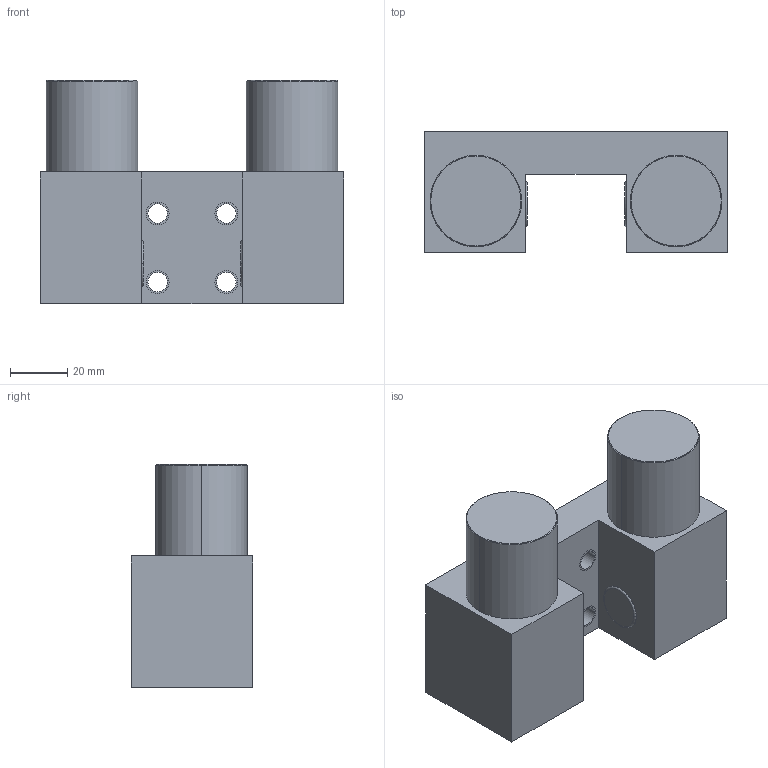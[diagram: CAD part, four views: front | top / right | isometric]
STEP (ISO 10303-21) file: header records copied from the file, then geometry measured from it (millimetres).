
FILE_DESCRIPTION((''),'2;1');
FILE_NAME('FRC35T02SEM-DEM01','2017-06-07T',('pietro.a'),(''),'CREO PARAMETRIC BY PTC INC, 2016050','CREO PARAMETRIC BY PTC INC, 2016050','');
FILE_SCHEMA(('CONFIG_CONTROL_DESIGN'));
Length unit declared in the file: millimetre
Products named in the file (1): FRC35T02SEM-DEM01
Bounding box: 106 x 42.5 x 78 mm (x, y, z)
Volume: 212393 mm3; surface area: 32210.1 mm2
Topology: 1 solids, 5 shells, 54 faces, 128 edges, 80 vertices
Faces by surface type: cylinder 24, plane 14, cone 12, torus 4
Entity records: 1623 total; most frequent: DIRECTION 306, CARTESIAN_POINT 263, ORIENTED_EDGE 240, EDGE_CURVE 128, AXIS2_PLACEMENT_3D 123, VERTEX_POINT 80, CIRCLE 68, EDGE_LOOP 66
